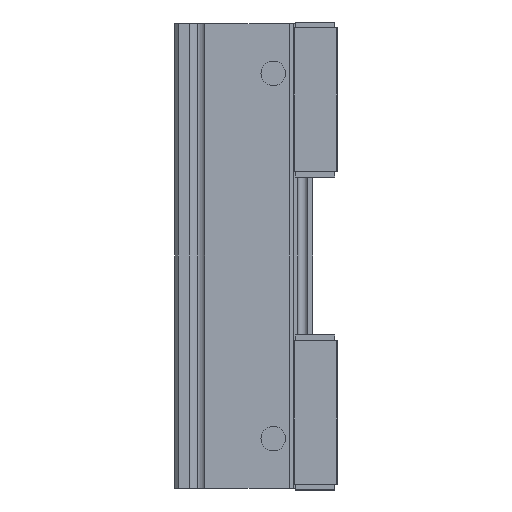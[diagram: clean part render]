
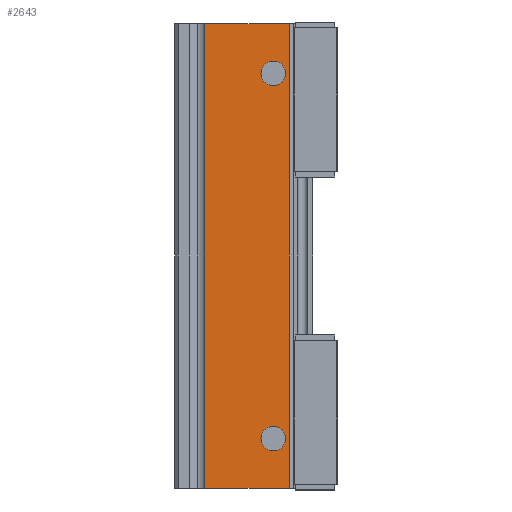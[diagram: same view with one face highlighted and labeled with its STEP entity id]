
A CAD part, left-side view. The second image highlights one B-rep face of the part: STEP entity #2643.
In plain terms, the highlighted planar face has unit normal (-1, 0, 0) as drawn and (0, 0, -1) by its records, which use the part's own axes.
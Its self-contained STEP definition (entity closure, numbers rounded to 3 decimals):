
#40 = VECTOR ( 'NONE', #627, 1000. ) ;
#114 = EDGE_CURVE ( 'NONE', #5488, #493, #3185, .T. ) ;
#301 = LINE ( 'NONE', #4085, #3184 ) ;
#446 = VERTEX_POINT ( 'NONE', #1848 ) ;
#483 = DIRECTION ( 'NONE',  ( 0., 0., -1. ) ) ;
#493 = VERTEX_POINT ( 'NONE', #6771 ) ;
#517 = CARTESIAN_POINT ( 'NONE',  ( 47., 0.75, -25. ) ) ;
#556 = EDGE_LOOP ( 'NONE', ( #5248, #5514 ) ) ;
#627 = DIRECTION ( 'NONE',  ( 0., 1., 0. ) ) ;
#630 = CIRCLE ( 'NONE', #4667, 2.5 ) ;
#675 = EDGE_CURVE ( 'NONE', #2071, #3787, #630, .T. ) ;
#724 = EDGE_CURVE ( 'NONE', #3787, #2071, #3628, .T. ) ;
#769 = AXIS2_PLACEMENT_3D ( 'NONE', #1740, #5548, #3318 ) ;
#791 = LINE ( 'NONE', #2451, #2281 ) ;
#824 = EDGE_LOOP ( 'NONE', ( #5594, #3401 ) ) ;
#974 = CARTESIAN_POINT ( 'NONE',  ( -37., 1.5, -25. ) ) ;
#1286 = PLANE ( 'NONE',  #6652 ) ;
#1708 = VERTEX_POINT ( 'NONE', #5600 ) ;
#1740 = CARTESIAN_POINT ( 'NONE',  ( 37., 4., -25. ) ) ;
#1760 = EDGE_CURVE ( 'NONE', #5488, #446, #301, .T. ) ;
#1802 = DIRECTION ( 'NONE',  ( -1., 0., 0. ) ) ;
#1848 = CARTESIAN_POINT ( 'NONE',  ( 47., 17.9, -25. ) ) ;
#1977 = ORIENTED_EDGE ( 'NONE', *, *, #1760, .F. ) ;
#1980 = CARTESIAN_POINT ( 'NONE',  ( 37., 6.5, -25. ) ) ;
#2071 = VERTEX_POINT ( 'NONE', #5857 ) ;
#2259 = CARTESIAN_POINT ( 'NONE',  ( -37., 4., -25. ) ) ;
#2281 = VECTOR ( 'NONE', #1802, 1000. ) ;
#2364 = FACE_BOUND ( 'NONE', #824, .T. ) ;
#2451 = CARTESIAN_POINT ( 'NONE',  ( 47., 17.9, -25. ) ) ;
#2643 = ADVANCED_FACE ( 'NONE', ( #2364, #4556, #6795 ), #1286, .F. ) ;
#2693 = DIRECTION ( 'NONE',  ( 0., 1., 0. ) ) ;
#2941 = DIRECTION ( 'NONE',  ( 0., 0., 1. ) ) ;
#3184 = VECTOR ( 'NONE', #6360, 1000. ) ;
#3185 = LINE ( 'NONE', #6214, #6727 ) ;
#3318 = DIRECTION ( 'NONE',  ( 0., 1., 0. ) ) ;
#3401 = ORIENTED_EDGE ( 'NONE', *, *, #724, .F. ) ;
#3576 = EDGE_LOOP ( 'NONE', ( #1977, #3999, #7112, #6100 ) ) ;
#3628 = CIRCLE ( 'NONE', #6395, 2.5 ) ;
#3787 = VERTEX_POINT ( 'NONE', #974 ) ;
#3999 = ORIENTED_EDGE ( 'NONE', *, *, #114, .T. ) ;
#4085 = CARTESIAN_POINT ( 'NONE',  ( 47., 24., -25. ) ) ;
#4302 = CARTESIAN_POINT ( 'NONE',  ( 37., 1.5, -25. ) ) ;
#4492 = CARTESIAN_POINT ( 'NONE',  ( -47., 24., -25. ) ) ;
#4556 = FACE_BOUND ( 'NONE', #556, .T. ) ;
#4667 = AXIS2_PLACEMENT_3D ( 'NONE', #4726, #6575, #6105 ) ;
#4726 = CARTESIAN_POINT ( 'NONE',  ( -37., 4., -25. ) ) ;
#4807 = EDGE_CURVE ( 'NONE', #5339, #6565, #6847, .T. ) ;
#4854 = EDGE_CURVE ( 'NONE', #493, #1708, #4962, .T. ) ;
#4958 = DIRECTION ( 'NONE',  ( 0., 0., -1. ) ) ;
#4962 = LINE ( 'NONE', #4492, #40 ) ;
#5135 = DIRECTION ( 'NONE',  ( 0., -1., 0. ) ) ;
#5248 = ORIENTED_EDGE ( 'NONE', *, *, #6109, .F. ) ;
#5339 = VERTEX_POINT ( 'NONE', #4302 ) ;
#5488 = VERTEX_POINT ( 'NONE', #517 ) ;
#5514 = ORIENTED_EDGE ( 'NONE', *, *, #4807, .F. ) ;
#5548 = DIRECTION ( 'NONE',  ( 0., 0., -1. ) ) ;
#5594 = ORIENTED_EDGE ( 'NONE', *, *, #675, .F. ) ;
#5600 = CARTESIAN_POINT ( 'NONE',  ( -47., 17.9, -25. ) ) ;
#5668 = DIRECTION ( 'NONE',  ( -1., 0., 0. ) ) ;
#5805 = AXIS2_PLACEMENT_3D ( 'NONE', #5971, #483, #2693 ) ;
#5857 = CARTESIAN_POINT ( 'NONE',  ( -37., 6.5, -25. ) ) ;
#5971 = CARTESIAN_POINT ( 'NONE',  ( 37., 4., -25. ) ) ;
#6100 = ORIENTED_EDGE ( 'NONE', *, *, #6955, .F. ) ;
#6105 = DIRECTION ( 'NONE',  ( 0., 1., 0. ) ) ;
#6109 = EDGE_CURVE ( 'NONE', #6565, #5339, #6634, .T. ) ;
#6214 = CARTESIAN_POINT ( 'NONE',  ( 47., 0.75, -25. ) ) ;
#6360 = DIRECTION ( 'NONE',  ( 0., 1., 0. ) ) ;
#6395 = AXIS2_PLACEMENT_3D ( 'NONE', #2259, #4958, #7117 ) ;
#6565 = VERTEX_POINT ( 'NONE', #1980 ) ;
#6575 = DIRECTION ( 'NONE',  ( 0., 0., -1. ) ) ;
#6634 = CIRCLE ( 'NONE', #769, 2.5 ) ;
#6652 = AXIS2_PLACEMENT_3D ( 'NONE', #6825, #2941, #5135 ) ;
#6727 = VECTOR ( 'NONE', #5668, 1000. ) ;
#6771 = CARTESIAN_POINT ( 'NONE',  ( -47., 0.75, -25. ) ) ;
#6795 = FACE_OUTER_BOUND ( 'NONE', #3576, .T. ) ;
#6825 = CARTESIAN_POINT ( 'NONE',  ( 47., 24., -25. ) ) ;
#6847 = CIRCLE ( 'NONE', #5805, 2.5 ) ;
#6955 = EDGE_CURVE ( 'NONE', #446, #1708, #791, .T. ) ;
#7112 = ORIENTED_EDGE ( 'NONE', *, *, #4854, .T. ) ;
#7117 = DIRECTION ( 'NONE',  ( 0., 1., 0. ) ) ;
